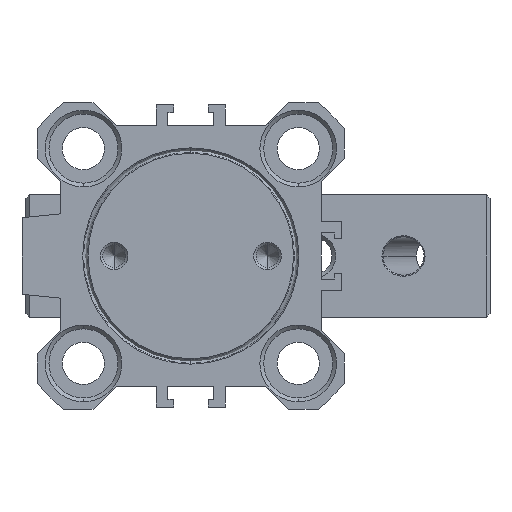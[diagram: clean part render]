
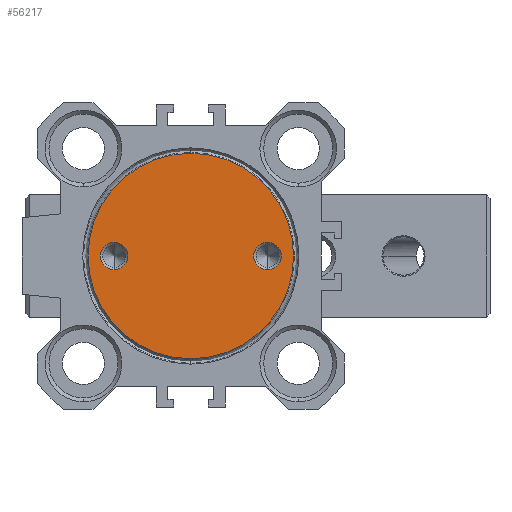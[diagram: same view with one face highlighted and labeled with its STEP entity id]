
A CAD part, front view. The second image highlights one B-rep face of the part: STEP entity #56217.
In plain terms, the highlighted planar face has unit normal (0, -1, 0).
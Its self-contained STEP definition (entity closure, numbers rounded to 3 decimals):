
#52612 = VERTEX_POINT('',#52613);
#52613 = CARTESIAN_POINT('',(36.741,71.078,-1.8));
#52620 = CONICAL_SURFACE('',#52621,1.5,0.785);
#52621 = AXIS2_PLACEMENT_3D('',#52622,#52623,#52624);
#52622 = CARTESIAN_POINT('',(36.741,71.378,0.));
#52623 = DIRECTION('',(0.,-1.,0.));
#52624 = DIRECTION('',(0.,0.,-1.));
#52632 = CONICAL_SURFACE('',#52633,1.5,0.785);
#52633 = AXIS2_PLACEMENT_3D('',#52634,#52635,#52636);
#52634 = CARTESIAN_POINT('',(36.741,71.378,0.));
#52635 = DIRECTION('',(0.,-1.,0.));
#52636 = DIRECTION('',(0.,0.,-1.));
#52644 = EDGE_CURVE('',#52612,#52645,#52647,.T.);
#52645 = VERTEX_POINT('',#52646);
#52646 = CARTESIAN_POINT('',(36.741,71.078,1.8));
#52647 = SURFACE_CURVE('',#52648,(#52653,#52660),.PCURVE_S1.);
#52648 = CIRCLE('',#52649,1.8);
#52649 = AXIS2_PLACEMENT_3D('',#52650,#52651,#52652);
#52650 = CARTESIAN_POINT('',(36.741,71.078,0.));
#52651 = DIRECTION('',(-0.,1.,0.));
#52652 = DIRECTION('',(0.,0.,1.));
#52653 = PCURVE('',#52620,#52654);
#52654 = DEFINITIONAL_REPRESENTATION('',(#52655),#52659);
#52655 = LINE('',#52656,#52657);
#52656 = CARTESIAN_POINT('',(9.425,0.3));
#52657 = VECTOR('',#52658,1.);
#52658 = DIRECTION('',(-1.,0.));
#52659 = ( GEOMETRIC_REPRESENTATION_CONTEXT(2) 
PARAMETRIC_REPRESENTATION_CONTEXT() REPRESENTATION_CONTEXT('2D SPACE',''
  ) );
#52660 = PCURVE('',#52661,#52666);
#52661 = PLANE('',#52662);
#52662 = AXIS2_PLACEMENT_3D('',#52663,#52664,#52665);
#52663 = CARTESIAN_POINT('',(58.241,71.078,0.));
#52664 = DIRECTION('',(-0.,1.,0.));
#52665 = DIRECTION('',(0.,0.,1.));
#52666 = DEFINITIONAL_REPRESENTATION('',(#52667),#52671);
#52667 = CIRCLE('',#52668,1.8);
#52668 = AXIS2_PLACEMENT_2D('',#52669,#52670);
#52669 = CARTESIAN_POINT('',(0.,-21.5));
#52670 = DIRECTION('',(1.,0.));
#52671 = ( GEOMETRIC_REPRESENTATION_CONTEXT(2) 
PARAMETRIC_REPRESENTATION_CONTEXT() REPRESENTATION_CONTEXT('2D SPACE',''
  ) );
#52729 = VERTEX_POINT('',#52730);
#52730 = CARTESIAN_POINT('',(56.741,71.078,-1.8));
#52737 = CONICAL_SURFACE('',#52738,1.5,0.785);
#52738 = AXIS2_PLACEMENT_3D('',#52739,#52740,#52741);
#52739 = CARTESIAN_POINT('',(56.741,71.378,0.));
#52740 = DIRECTION('',(0.,-1.,0.));
#52741 = DIRECTION('',(0.,0.,-1.));
#52749 = CONICAL_SURFACE('',#52750,1.5,0.785);
#52750 = AXIS2_PLACEMENT_3D('',#52751,#52752,#52753);
#52751 = CARTESIAN_POINT('',(56.741,71.378,0.));
#52752 = DIRECTION('',(0.,-1.,0.));
#52753 = DIRECTION('',(0.,0.,-1.));
#52761 = EDGE_CURVE('',#52729,#52762,#52764,.T.);
#52762 = VERTEX_POINT('',#52763);
#52763 = CARTESIAN_POINT('',(56.741,71.078,1.8));
#52764 = SURFACE_CURVE('',#52765,(#52770,#52777),.PCURVE_S1.);
#52765 = CIRCLE('',#52766,1.8);
#52766 = AXIS2_PLACEMENT_3D('',#52767,#52768,#52769);
#52767 = CARTESIAN_POINT('',(56.741,71.078,0.));
#52768 = DIRECTION('',(-0.,1.,0.));
#52769 = DIRECTION('',(0.,0.,1.));
#52770 = PCURVE('',#52737,#52771);
#52771 = DEFINITIONAL_REPRESENTATION('',(#52772),#52776);
#52772 = LINE('',#52773,#52774);
#52773 = CARTESIAN_POINT('',(9.425,0.3));
#52774 = VECTOR('',#52775,1.);
#52775 = DIRECTION('',(-1.,0.));
#52776 = ( GEOMETRIC_REPRESENTATION_CONTEXT(2) 
PARAMETRIC_REPRESENTATION_CONTEXT() REPRESENTATION_CONTEXT('2D SPACE',''
  ) );
#52777 = PCURVE('',#52661,#52778);
#52778 = DEFINITIONAL_REPRESENTATION('',(#52779),#52783);
#52779 = CIRCLE('',#52780,1.8);
#52780 = AXIS2_PLACEMENT_2D('',#52781,#52782);
#52781 = CARTESIAN_POINT('',(0.,-1.5));
#52782 = DIRECTION('',(1.,0.));
#52783 = ( GEOMETRIC_REPRESENTATION_CONTEXT(2) 
PARAMETRIC_REPRESENTATION_CONTEXT() REPRESENTATION_CONTEXT('2D SPACE',''
  ) );
#53127 = CONICAL_SURFACE('',#53128,13.4,0.785);
#53128 = AXIS2_PLACEMENT_3D('',#53129,#53130,#53131);
#53129 = CARTESIAN_POINT('',(46.741,71.078,0.));
#53130 = DIRECTION('',(-0.,1.,-0.));
#53131 = DIRECTION('',(0.,0.,1.));
#53264 = EDGE_CURVE('',#53265,#53267,#53269,.T.);
#53265 = VERTEX_POINT('',#53266);
#53266 = CARTESIAN_POINT('',(46.741,71.078,
    13.4));
#53267 = VERTEX_POINT('',#53268);
#53268 = CARTESIAN_POINT('',(46.741,71.078,
    -13.4));
#53269 = SURFACE_CURVE('',#53270,(#53275,#53282),.PCURVE_S1.);
#53270 = CIRCLE('',#53271,13.4);
#53271 = AXIS2_PLACEMENT_3D('',#53272,#53273,#53274);
#53272 = CARTESIAN_POINT('',(46.741,71.078,0.));
#53273 = DIRECTION('',(-0.,1.,0.));
#53274 = DIRECTION('',(0.,0.,1.));
#53275 = PCURVE('',#53127,#53276);
#53276 = DEFINITIONAL_REPRESENTATION('',(#53277),#53281);
#53277 = LINE('',#53278,#53279);
#53278 = CARTESIAN_POINT('',(0.,0.));
#53279 = VECTOR('',#53280,1.);
#53280 = DIRECTION('',(1.,0.));
#53281 = ( GEOMETRIC_REPRESENTATION_CONTEXT(2) 
PARAMETRIC_REPRESENTATION_CONTEXT() REPRESENTATION_CONTEXT('2D SPACE',''
  ) );
#53282 = PCURVE('',#52661,#53283);
#53283 = DEFINITIONAL_REPRESENTATION('',(#53284),#53288);
#53284 = CIRCLE('',#53285,13.4);
#53285 = AXIS2_PLACEMENT_2D('',#53286,#53287);
#53286 = CARTESIAN_POINT('',(0.,-11.5));
#53287 = DIRECTION('',(1.,0.));
#53288 = ( GEOMETRIC_REPRESENTATION_CONTEXT(2) 
PARAMETRIC_REPRESENTATION_CONTEXT() REPRESENTATION_CONTEXT('2D SPACE',''
  ) );
#53304 = CONICAL_SURFACE('',#53305,13.4,0.785);
#53305 = AXIS2_PLACEMENT_3D('',#53306,#53307,#53308);
#53306 = CARTESIAN_POINT('',(46.741,71.078,0.));
#53307 = DIRECTION('',(-0.,1.,-0.));
#53308 = DIRECTION('',(0.,0.,1.));
#56217 = ADVANCED_FACE('',(#56218,#56243,#56268),#52661,.F.);
#56218 = FACE_BOUND('',#56219,.T.);
#56219 = EDGE_LOOP('',(#56220,#56221));
#56220 = ORIENTED_EDGE('',*,*,#52761,.T.);
#56221 = ORIENTED_EDGE('',*,*,#56222,.T.);
#56222 = EDGE_CURVE('',#52762,#52729,#56223,.T.);
#56223 = SURFACE_CURVE('',#56224,(#56229,#56236),.PCURVE_S1.);
#56224 = CIRCLE('',#56225,1.8);
#56225 = AXIS2_PLACEMENT_3D('',#56226,#56227,#56228);
#56226 = CARTESIAN_POINT('',(56.741,71.078,0.));
#56227 = DIRECTION('',(-0.,1.,0.));
#56228 = DIRECTION('',(0.,0.,1.));
#56229 = PCURVE('',#52661,#56230);
#56230 = DEFINITIONAL_REPRESENTATION('',(#56231),#56235);
#56231 = CIRCLE('',#56232,1.8);
#56232 = AXIS2_PLACEMENT_2D('',#56233,#56234);
#56233 = CARTESIAN_POINT('',(0.,-1.5));
#56234 = DIRECTION('',(1.,0.));
#56235 = ( GEOMETRIC_REPRESENTATION_CONTEXT(2) 
PARAMETRIC_REPRESENTATION_CONTEXT() REPRESENTATION_CONTEXT('2D SPACE',''
  ) );
#56236 = PCURVE('',#52749,#56237);
#56237 = DEFINITIONAL_REPRESENTATION('',(#56238),#56242);
#56238 = LINE('',#56239,#56240);
#56239 = CARTESIAN_POINT('',(3.142,0.3));
#56240 = VECTOR('',#56241,1.);
#56241 = DIRECTION('',(-1.,0.));
#56242 = ( GEOMETRIC_REPRESENTATION_CONTEXT(2) 
PARAMETRIC_REPRESENTATION_CONTEXT() REPRESENTATION_CONTEXT('2D SPACE',''
  ) );
#56243 = FACE_BOUND('',#56244,.T.);
#56244 = EDGE_LOOP('',(#56245,#56246));
#56245 = ORIENTED_EDGE('',*,*,#52644,.T.);
#56246 = ORIENTED_EDGE('',*,*,#56247,.T.);
#56247 = EDGE_CURVE('',#52645,#52612,#56248,.T.);
#56248 = SURFACE_CURVE('',#56249,(#56254,#56261),.PCURVE_S1.);
#56249 = CIRCLE('',#56250,1.8);
#56250 = AXIS2_PLACEMENT_3D('',#56251,#56252,#56253);
#56251 = CARTESIAN_POINT('',(36.741,71.078,0.));
#56252 = DIRECTION('',(-0.,1.,0.));
#56253 = DIRECTION('',(0.,0.,1.));
#56254 = PCURVE('',#52661,#56255);
#56255 = DEFINITIONAL_REPRESENTATION('',(#56256),#56260);
#56256 = CIRCLE('',#56257,1.8);
#56257 = AXIS2_PLACEMENT_2D('',#56258,#56259);
#56258 = CARTESIAN_POINT('',(0.,-21.5));
#56259 = DIRECTION('',(1.,0.));
#56260 = ( GEOMETRIC_REPRESENTATION_CONTEXT(2) 
PARAMETRIC_REPRESENTATION_CONTEXT() REPRESENTATION_CONTEXT('2D SPACE',''
  ) );
#56261 = PCURVE('',#52632,#56262);
#56262 = DEFINITIONAL_REPRESENTATION('',(#56263),#56267);
#56263 = LINE('',#56264,#56265);
#56264 = CARTESIAN_POINT('',(3.142,0.3));
#56265 = VECTOR('',#56266,1.);
#56266 = DIRECTION('',(-1.,0.));
#56267 = ( GEOMETRIC_REPRESENTATION_CONTEXT(2) 
PARAMETRIC_REPRESENTATION_CONTEXT() REPRESENTATION_CONTEXT('2D SPACE',''
  ) );
#56268 = FACE_BOUND('',#56269,.T.);
#56269 = EDGE_LOOP('',(#56270,#56271));
#56270 = ORIENTED_EDGE('',*,*,#53264,.F.);
#56271 = ORIENTED_EDGE('',*,*,#56272,.F.);
#56272 = EDGE_CURVE('',#53267,#53265,#56273,.T.);
#56273 = SURFACE_CURVE('',#56274,(#56279,#56286),.PCURVE_S1.);
#56274 = CIRCLE('',#56275,13.4);
#56275 = AXIS2_PLACEMENT_3D('',#56276,#56277,#56278);
#56276 = CARTESIAN_POINT('',(46.741,71.078,0.));
#56277 = DIRECTION('',(-0.,1.,0.));
#56278 = DIRECTION('',(0.,0.,1.));
#56279 = PCURVE('',#52661,#56280);
#56280 = DEFINITIONAL_REPRESENTATION('',(#56281),#56285);
#56281 = CIRCLE('',#56282,13.4);
#56282 = AXIS2_PLACEMENT_2D('',#56283,#56284);
#56283 = CARTESIAN_POINT('',(0.,-11.5));
#56284 = DIRECTION('',(1.,0.));
#56285 = ( GEOMETRIC_REPRESENTATION_CONTEXT(2) 
PARAMETRIC_REPRESENTATION_CONTEXT() REPRESENTATION_CONTEXT('2D SPACE',''
  ) );
#56286 = PCURVE('',#53304,#56287);
#56287 = DEFINITIONAL_REPRESENTATION('',(#56288),#56292);
#56288 = LINE('',#56289,#56290);
#56289 = CARTESIAN_POINT('',(0.,0.));
#56290 = VECTOR('',#56291,1.);
#56291 = DIRECTION('',(1.,0.));
#56292 = ( GEOMETRIC_REPRESENTATION_CONTEXT(2) 
PARAMETRIC_REPRESENTATION_CONTEXT() REPRESENTATION_CONTEXT('2D SPACE',''
  ) );
